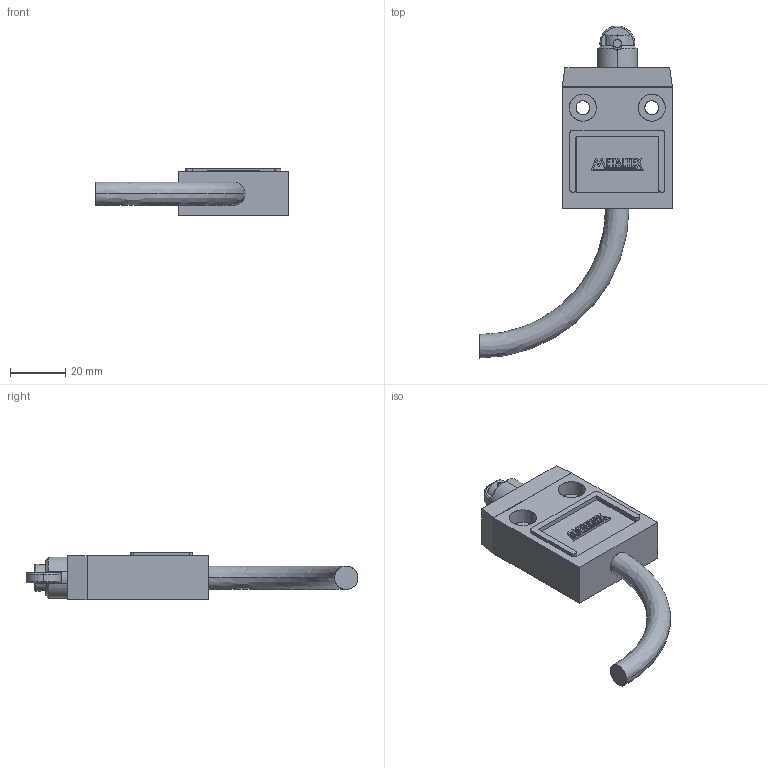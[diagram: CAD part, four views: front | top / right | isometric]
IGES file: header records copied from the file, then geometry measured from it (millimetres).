
Start section: SolidWorks IGES file using analytic representation for surfaces
Global section: file name: D:\X - Arquivos\PROEX\Empresas\P11 - METALTEX\01 - Produtos\IGES\6ª remessa\6ª etapa\IGES\TZ-3102.IGS; native system: SolidWorks 2012; preprocessor: SolidWorks 2012; author: Usuario; date: 190524.105200; units: millimetre
Bounding box: 70 x 120.5 x 17.3 mm (x, y, z)
Surface area: 12088.8 mm2 (no closed solid volume)
Topology: 0 solids, 0 shells, 251 faces, 2690 edges, 2690 vertices
Faces by surface type: bspline 202, revolution 49
